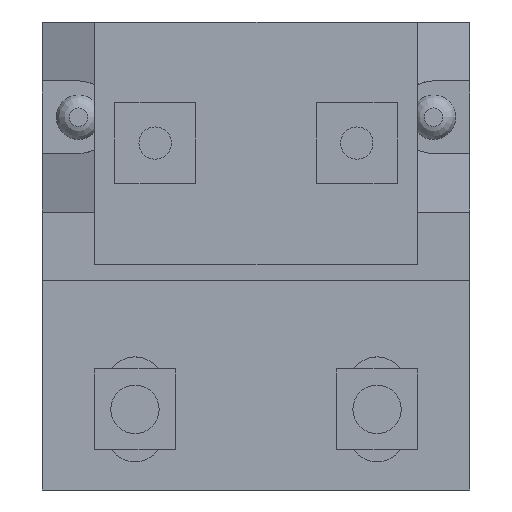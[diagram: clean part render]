
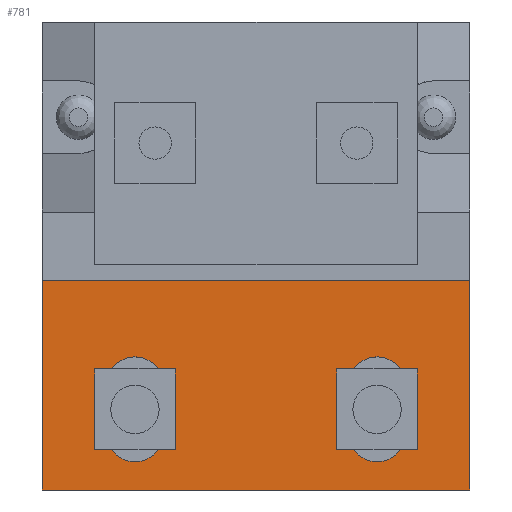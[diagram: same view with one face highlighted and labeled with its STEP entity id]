
A CAD part, front view. The second image highlights one B-rep face of the part: STEP entity #781.
In plain terms, the highlighted planar face has unit normal (0, -1, 0).
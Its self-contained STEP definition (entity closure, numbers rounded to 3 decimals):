
#150=CARTESIAN_POINT('',(18.5,0.,-18.));
#151=VERTEX_POINT('',#150);
#158=CARTESIAN_POINT('',(18.5,0.,-12.));
#159=VERTEX_POINT('',#158);
#160=CARTESIAN_POINT('',(18.5,0.,-12.));
#161=DIRECTION('',(0.0,0.0,-1.0));
#162=VECTOR('',#161,6.);
#163=LINE('',#160,#162);
#164=EDGE_CURVE('',#159,#151,#163,.T.);
#210=CARTESIAN_POINT('',(11.5,0.,-18.));
#211=VERTEX_POINT('',#210);
#218=CARTESIAN_POINT('',(15.,0.,-18.));
#219=DIRECTION('',(0.0,1.0,0.0));
#220=DIRECTION('',(1.0,0.0,0.0));
#221=AXIS2_PLACEMENT_3D('',#218,#219,#220);
#222=CIRCLE('',#221,3.5);
#223=EDGE_CURVE('',#151,#211,#222,.T.);
#242=CARTESIAN_POINT('',(11.5,0.,-12.0));
#243=VERTEX_POINT('',#242);
#250=CARTESIAN_POINT('',(11.5,0.,-18.));
#251=DIRECTION('',(0.0,0.0,1.0));
#252=VECTOR('',#251,6.);
#253=LINE('',#250,#252);
#254=EDGE_CURVE('',#211,#243,#253,.T.);
#294=CARTESIAN_POINT('',(15.,0.,-12.));
#295=DIRECTION('',(0.0,1.0,0.0));
#296=DIRECTION('',(-1.0,0.0,0.0));
#297=AXIS2_PLACEMENT_3D('',#294,#295,#296);
#298=CIRCLE('',#297,3.5);
#299=EDGE_CURVE('',#243,#159,#298,.T.);
#369=CARTESIAN_POINT('',(-18.5,0.,-12.));
#370=VERTEX_POINT('',#369);
#377=CARTESIAN_POINT('',(-18.5,0.,-18.));
#378=VERTEX_POINT('',#377);
#379=CARTESIAN_POINT('',(-18.5,0.,-18.));
#380=DIRECTION('',(0.0,0.0,1.0));
#381=VECTOR('',#380,6.);
#382=LINE('',#379,#381);
#383=EDGE_CURVE('',#378,#370,#382,.T.);
#409=CARTESIAN_POINT('',(-11.5,0.,-18.));
#410=VERTEX_POINT('',#409);
#411=CARTESIAN_POINT('',(-15.,0.,-18.));
#412=DIRECTION('',(0.0,1.0,0.0));
#413=DIRECTION('',(-1.0,0.0,0.0));
#414=AXIS2_PLACEMENT_3D('',#411,#412,#413);
#415=CIRCLE('',#414,3.5);
#416=EDGE_CURVE('',#410,#378,#415,.T.);
#441=CARTESIAN_POINT('',(-11.5,0.,-12.0));
#442=VERTEX_POINT('',#441);
#443=CARTESIAN_POINT('',(-11.5,0.,-12.0));
#444=DIRECTION('',(0.0,0.0,-1.0));
#445=VECTOR('',#444,6.);
#446=LINE('',#443,#445);
#447=EDGE_CURVE('',#442,#410,#446,.T.);
#471=CARTESIAN_POINT('',(-15.,0.,-12.));
#472=DIRECTION('',(0.0,1.0,0.0));
#473=DIRECTION('',(1.0,0.0,0.0));
#474=AXIS2_PLACEMENT_3D('',#471,#472,#473);
#475=CIRCLE('',#474,3.5);
#476=EDGE_CURVE('',#370,#442,#475,.T.);
#487=CARTESIAN_POINT('',(26.5,0.,1.));
#488=VERTEX_POINT('',#487);
#497=CARTESIAN_POINT('',(26.5,0.,-25.));
#498=VERTEX_POINT('',#497);
#499=CARTESIAN_POINT('',(26.5,0.,-25.));
#500=DIRECTION('',(0.0,0.0,1.0));
#501=VECTOR('',#500,26.);
#502=LINE('',#499,#501);
#503=EDGE_CURVE('',#498,#488,#502,.T.);
#559=CARTESIAN_POINT('',(-26.5,0.,-25.));
#560=VERTEX_POINT('',#559);
#576=CARTESIAN_POINT('',(-26.5,0.,-25.));
#577=DIRECTION('',(1.0,0.0,0.0));
#578=VECTOR('',#577,53.);
#579=LINE('',#576,#578);
#580=EDGE_CURVE('',#560,#498,#579,.T.);
#734=CARTESIAN_POINT('',(-26.5,0.,1.));
#735=VERTEX_POINT('',#734);
#742=CARTESIAN_POINT('',(26.5,0.,1.));
#743=DIRECTION('',(-1.0,0.0,0.0));
#744=VECTOR('',#743,53.);
#745=LINE('',#742,#744);
#746=EDGE_CURVE('',#488,#735,#745,.T.);
#753=CARTESIAN_POINT('',(0.,0.,1.));
#754=DIRECTION('',(0.0,-1.0,0.0));
#755=DIRECTION('',(1.0,0.0,0.0));
#756=AXIS2_PLACEMENT_3D('',#753,#754,#755);
#757=PLANE('',#756);
#758=CARTESIAN_POINT('',(-26.5,0.,1.));
#759=DIRECTION('',(0.0,0.0,-1.0));
#760=VECTOR('',#759,26.);
#761=LINE('',#758,#760);
#762=EDGE_CURVE('',#735,#560,#761,.T.);
#763=ORIENTED_EDGE('',*,*,#762,.T.);
#764=ORIENTED_EDGE('',*,*,#580,.T.);
#765=ORIENTED_EDGE('',*,*,#503,.T.);
#766=ORIENTED_EDGE('',*,*,#746,.T.);
#767=EDGE_LOOP('',(#763,#764,#765,#766));
#768=FACE_OUTER_BOUND('',#767,.T.);
#769=ORIENTED_EDGE('',*,*,#164,.T.);
#770=ORIENTED_EDGE('',*,*,#223,.T.);
#771=ORIENTED_EDGE('',*,*,#254,.T.);
#772=ORIENTED_EDGE('',*,*,#299,.T.);
#773=EDGE_LOOP('',(#769,#770,#771,#772));
#774=FACE_BOUND('',#773,.T.);
#775=ORIENTED_EDGE('',*,*,#447,.T.);
#776=ORIENTED_EDGE('',*,*,#416,.T.);
#777=ORIENTED_EDGE('',*,*,#383,.T.);
#778=ORIENTED_EDGE('',*,*,#476,.T.);
#779=EDGE_LOOP('',(#775,#776,#777,#778));
#780=FACE_BOUND('',#779,.T.);
#781=ADVANCED_FACE('',(#768,#774,#780),#757,.T.);
